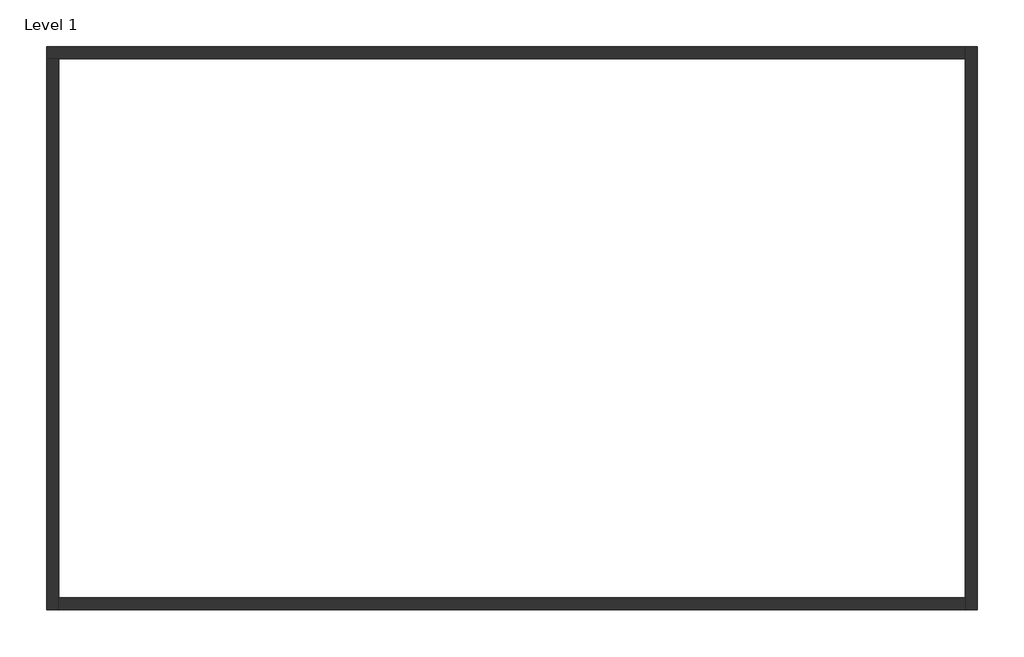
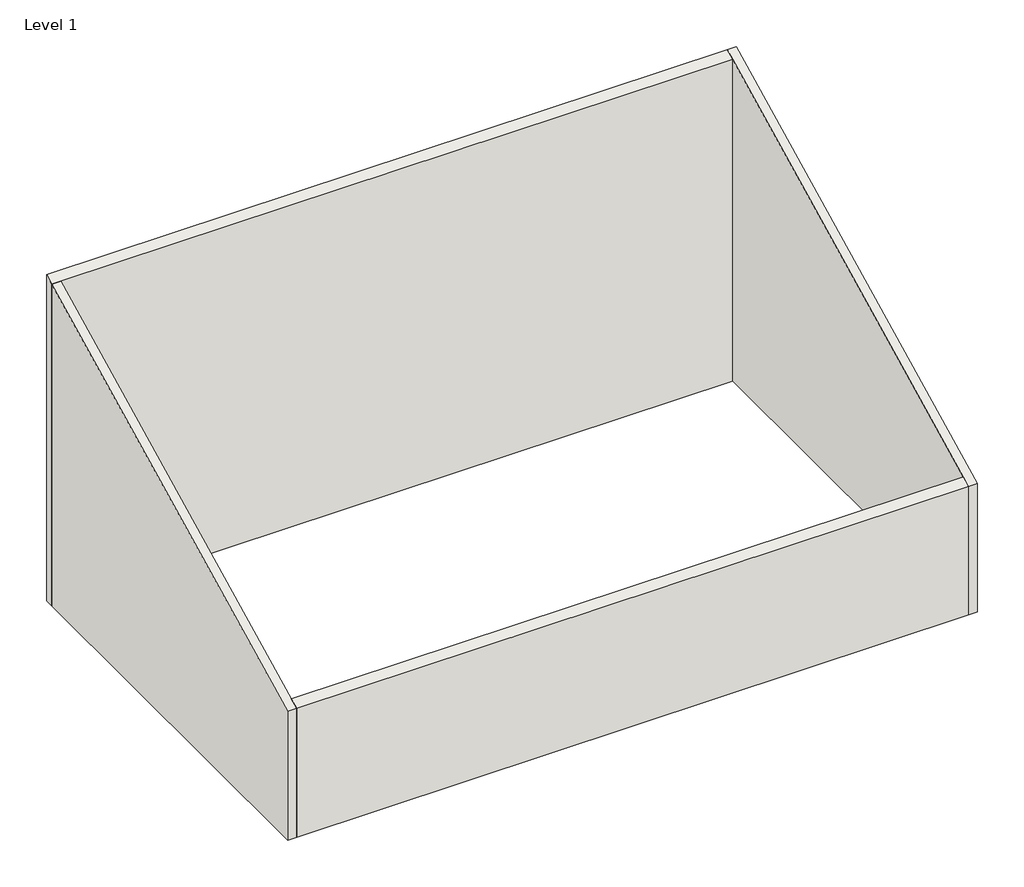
# One storey: 4 walls.
"""IFC4 building model written with IfcOpenShell, lengths in millimetres."""

from ifc_helpers import new_model, si_unit, frame, origin, place, context, project, spatial, polyline, outline, extrude, faceted_brep, element, save

model = new_model("IFC4")

# Units and contexts
model_context = context("Model", 3, world=origin())
ifc_project = project(units=[si_unit("LENGTHUNIT", "METRE", prefix="MILLI")], contexts=[model_context])

# Site, building, storey
site = spatial("IfcSite", under=ifc_project)
building = spatial("IfcBuilding", under=site)
storey = spatial("IfcBuildingStorey", under=building, Name="Level 1", Elevation=0.0)

# Walls
placement = place(None, origin())
element("IfcWall", 1, ObjectType="Generic - 8\"", at=placement, inside=storey, context=model_context, shape_type="Brep", body=[
    faceted_brep([(-7596.1466991, 6927.4122484, 0.0), (-7392.9466991, 6927.4122484, 0.0), (7643.8533009, 6927.4122484, 0.0), (7643.8533009, 6927.4122484, 7620.0), (-7392.9466991, 6927.4122484, 7620.0), (-7596.1466991, 6927.4122484, 7620.0), (-7596.1466991, 7130.6122484, 0.0), (-7596.1466991, 7130.6122484, 7721.6), (7643.8533009, 7130.6122484, 7721.6), (7643.8533009, 7130.6122484, 0.0)], [[[0, 1, 2, 3, 4, 5]], [[6, 7, 8, 9]], [[2, 1, 0, 6, 9]], [[0, 5, 7, 6]], [[3, 2, 9, 8]], [[5, 4, 3, 8, 7]]]),
])
element("IfcWall", 2, ObjectType="Generic - 8\"", at=placement, inside=storey, context=model_context, shape_type="Brep", body=[
    faceted_brep([(-7392.9466991, -2216.5877516, 0.0), (-7392.9466991, -2013.3877516, 0.0), (-7392.9466991, 6927.4122484, 0.0), (-7392.9466991, 6927.4122484, 7620.0), (-7392.9466991, -2013.3877516, 3149.6), (-7392.9466991, -2216.5877516, 3048.0), (-7596.1466991, -2216.5877516, 0.0), (-7596.1466991, -2216.5877516, 3048.0), (-7596.1466991, 6927.4122484, 7620.0), (-7596.1466991, 6927.4122484, 0.0)], [[[0, 1, 2, 3, 4, 5]], [[6, 7, 8, 9]], [[2, 1, 0, 6, 9]], [[0, 5, 7, 6]], [[3, 2, 9, 8]], [[5, 4, 3, 8, 7]]]),
])
element("IfcWall", 3, ObjectType="Generic - 8\"", at=placement, inside=storey, context=model_context, shape_type="SweptSolid", body=[
    extrude(outline(polyline([(-2013.3877516, 3149.6), (-2013.3877516, 0.0), (-2216.5877516, 0.0), (-2216.5877516, 3048.0), (-2013.3877516, 3149.6)])), frame((-7392.9466991, 0.0, 0.0), z_axis=(1.0, 0.0, 0.0), x_axis=(0.0, 1.0, 0.0)), (0.0, 0.0, 1.0), 15036.8),
])
element("IfcWall", 4, ObjectType="Generic - 8\"", at=placement, inside=storey, context=model_context, shape_type="Brep", body=[
    faceted_brep([(7643.8533009, 7130.6122484, 0.0), (7643.8533009, 6927.4122484, 0.0), (7643.8533009, -2013.3877516, 0.0), (7643.8533009, -2216.5877516, 0.0), (7643.8533009, -2216.5877516, 3048.0), (7643.8533009, -2013.3877516, 3149.6), (7643.8533009, 6927.4122484, 7620.0), (7643.8533009, 7130.6122484, 7721.6), (7847.0533009, 7130.6122484, 0.0), (7847.0533009, 7130.6122484, 7721.6), (7847.0533009, -2216.5877516, 3048.0), (7847.0533009, -2216.5877516, 0.0)], [[[0, 1, 2, 3, 4, 5, 6, 7]], [[8, 9, 10, 11]], [[3, 2, 1, 0, 8, 11]], [[0, 7, 9, 8]], [[4, 3, 11, 10]], [[7, 6, 5, 4, 10, 9]]]),
])

save(model, "model.ifc")
